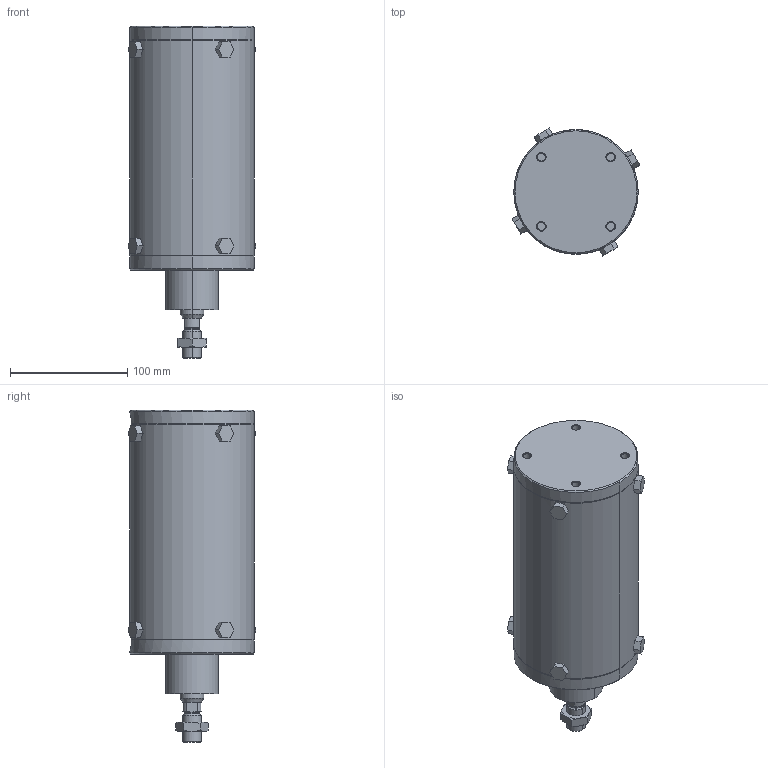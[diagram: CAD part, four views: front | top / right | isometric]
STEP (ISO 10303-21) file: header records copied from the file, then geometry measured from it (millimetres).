
FILE_DESCRIPTION((''),'2;1');
FILE_NAME('5218575120_ASM','2023-07-24T16:07:23',('THD3HC'),(''),'CREO PARAMETRIC BY PTC INC, 2020044','CREO PARAMETRIC BY PTC INC, 2020044','');
FILE_SCHEMA(('CONFIG_CONTROL_DESIGN','SHAPE_APPEARANCE_LAYERS_GROUPS'));
Length unit declared in the file: millimetre
Products named in the file (4): 5218575120-A; 5218575120-B; 5218575120-C; 5218575120_ASM
Assembly tree (3 placements, depth 2):
  5218575120_ASM
    5218575120-A
    5218575120-B
    5218575120-C
Bounding box: 108.83 x 108.83 x 283 mm (x, y, z)
Volume: 1389618.4 mm3; surface area: 205064.5 mm2
Topology: 3 solids, 3 shells, 173 faces, 396 edges, 248 vertices
Faces by surface type: plane 91, cylinder 42, cone 36, torus 4
Entity records: 8051 total; most frequent: CARTESIAN_POINT 1499, DIRECTION 826, ORIENTED_EDGE 792, PRESENTATION_STYLE_ASSIGNMENT 509, STYLED_ITEM 399, CURVE_STYLE 396, EDGE_CURVE 396, AXIS2_PLACEMENT_3D 322
